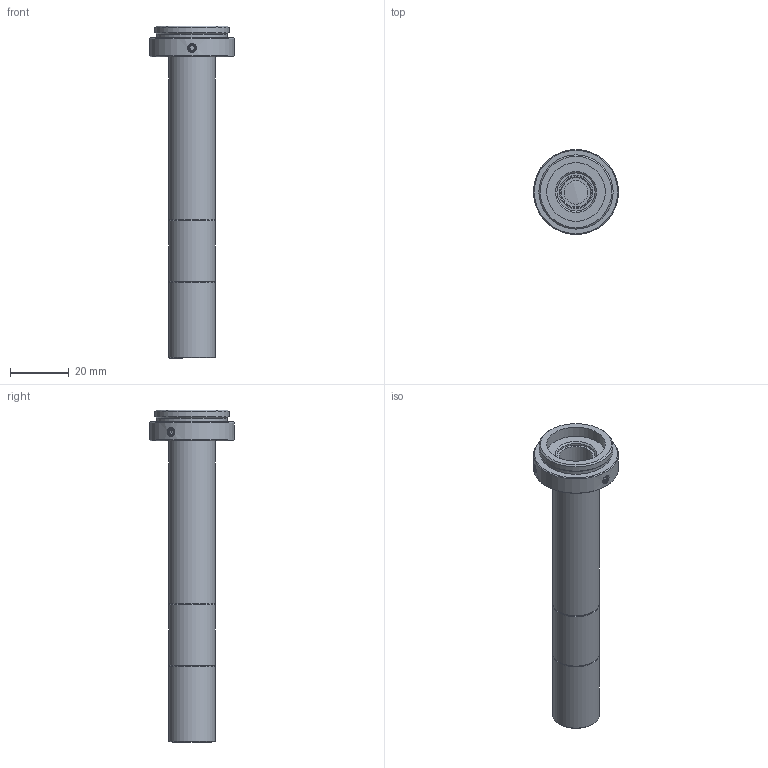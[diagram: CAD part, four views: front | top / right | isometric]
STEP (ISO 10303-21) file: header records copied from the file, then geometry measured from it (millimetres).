
FILE_DESCRIPTION(('STEP AP214'),'1');
FILE_NAME('RTK-6-110.stp','2026-03-17T06:24:57',(' '),(' '),'Spatial InterOp 3D',' ',' ');
FILE_SCHEMA(('AUTOMOTIVE_DESIGN { 1 0 10303 214 1 1 1 1 }'));
Length unit declared in the file: metre
Products named in the file (2): RTK-6-110; Component1
Assembly tree (1 placements, depth 2):
  RTK-6-110
    Component1
Bounding box: 29 x 29 x 113.29 mm (x, y, z)
Volume: 13581.6 mm3; surface area: 12168.7 mm2
Topology: 1 solids, 1 shells, 127 faces, 293 edges, 192 vertices
Faces by surface type: plane 50, cone 45, cylinder 27, bspline 3, sphere 2
Full cylindrical faces by diameter (mm): 2.5 x3, 8 x1, 10 x2, 11.4 x1, 12 x3, 13 x2, 13.4 x2, 13.5 x1, 13.7 x1, 14.2 x2, 16 x3, 20 x1, 24.12 x1, 25.32 x1, 29 x1
Entity records: 4584 total; most frequent: CARTESIAN_POINT 960, DIRECTION 532, ORIENTED_EDGE 446, EDGE_CURVE 223, AXIS2_PLACEMENT_3D 222, EDGE_LOOP 202, VERTEX_POINT 175, FACE_OUTER_BOUND 154
